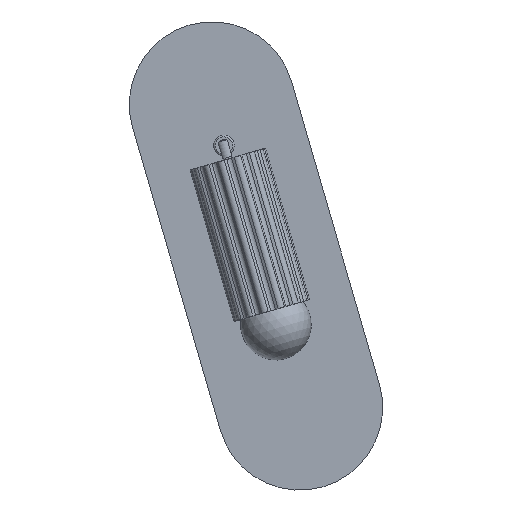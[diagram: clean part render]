
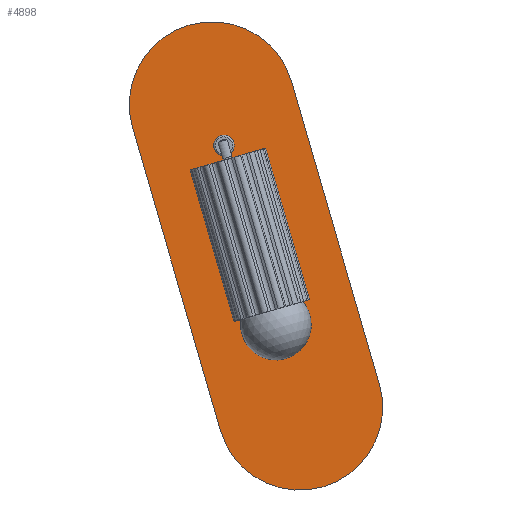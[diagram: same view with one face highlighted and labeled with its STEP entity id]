
A CAD part, front view. The second image highlights one B-rep face of the part: STEP entity #4898.
In plain terms, the highlighted planar face has unit normal (0, -1, 0).
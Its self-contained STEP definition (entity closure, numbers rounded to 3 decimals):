
#396=FACE_OUTER_BOUND('',#665,.T.);
#665=EDGE_LOOP('',(#4066,#4067,#4068,#4069));
#1095=LINE('',#8174,#1507);
#1096=LINE('',#8178,#1508);
#1507=VECTOR('',#6742,10.);
#1508=VECTOR('',#6745,10.);
#1741=CIRCLE('',#5405,52.5);
#1742=CIRCLE('',#5406,52.5);
#2172=VERTEX_POINT('',#8172);
#2173=VERTEX_POINT('',#8173);
#2174=VERTEX_POINT('',#8175);
#2175=VERTEX_POINT('',#8177);
#2813=EDGE_CURVE('',#2172,#2173,#1095,.T.);
#2814=EDGE_CURVE('',#2173,#2174,#1741,.T.);
#2815=EDGE_CURVE('',#2174,#2175,#1096,.T.);
#2816=EDGE_CURVE('',#2175,#2172,#1742,.T.);
#4066=ORIENTED_EDGE('',*,*,#2813,.T.);
#4067=ORIENTED_EDGE('',*,*,#2814,.T.);
#4068=ORIENTED_EDGE('',*,*,#2815,.T.);
#4069=ORIENTED_EDGE('',*,*,#2816,.T.);
#4365=PLANE('',#5404);
#4898=ADVANCED_FACE('',(#396),#4365,.T.);
#5404=AXIS2_PLACEMENT_3D('',#8171,#6740,#6741);
#5405=AXIS2_PLACEMENT_3D('',#8176,#6743,#6744);
#5406=AXIS2_PLACEMENT_3D('',#8179,#6746,#6747);
#6740=DIRECTION('center_axis',(0.,-1.,0.));
#6741=DIRECTION('ref_axis',(-0.96,0.,-0.279));
#6742=DIRECTION('',(-0.279,0.,0.96));
#6743=DIRECTION('center_axis',(0.,-1.,0.));
#6744=DIRECTION('ref_axis',(0.96,0.,0.279));
#6745=DIRECTION('',(0.279,0.,-0.96));
#6746=DIRECTION('center_axis',(0.,-1.,0.));
#6747=DIRECTION('ref_axis',(-0.96,0.,-0.279));
#8171=CARTESIAN_POINT('Origin',(-42.376,-163.305,-0.758));
#8172=CARTESIAN_POINT('',(35.9,-163.305,-82.177));
#8173=CARTESIAN_POINT('',(-19.808,-163.305,109.908));
#8174=CARTESIAN_POINT('',(35.9,-163.305,-82.177));
#8175=CARTESIAN_POINT('',(-120.652,-163.305,80.661));
#8176=CARTESIAN_POINT('Origin',(-70.23,-163.305,95.284));
#8177=CARTESIAN_POINT('',(-64.944,-163.305,-111.424));
#8178=CARTESIAN_POINT('',(-120.652,-163.305,80.661));
#8179=CARTESIAN_POINT('Origin',(-14.522,-163.305,-96.801));
